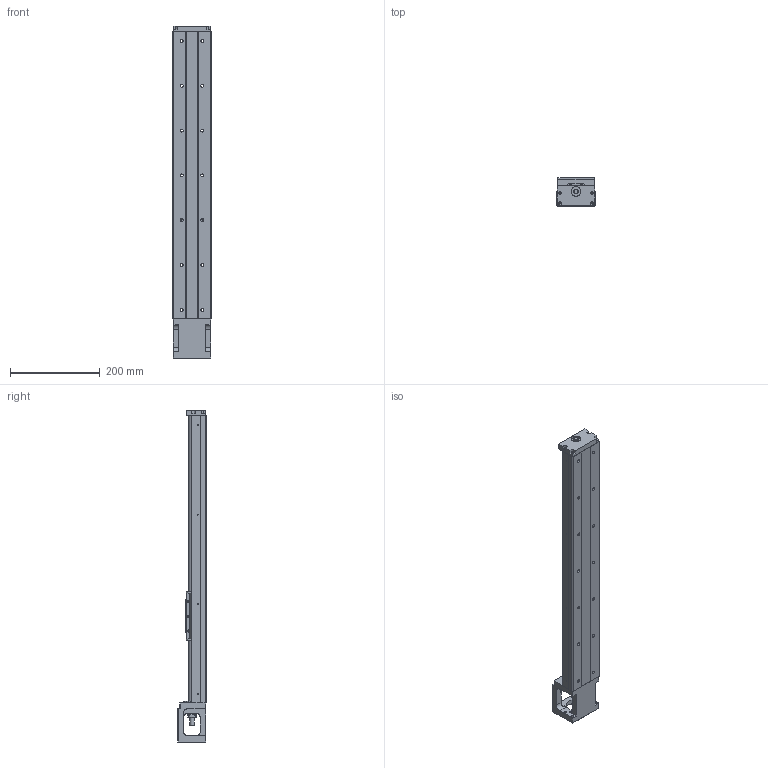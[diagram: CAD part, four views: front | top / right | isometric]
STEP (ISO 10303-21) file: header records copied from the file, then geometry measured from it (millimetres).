
FILE_DESCRIPTION(/* description */ (''),/* implementation_level */ '2;1');
FILE_NAME(/* name */ 'KP46N-640C02-D.stp',/* time_stamp */ '2020-07-03T09:40:22+08:00',/* author */ (''),/* organization */ (''),/* preprocessor_version */ 'ST-DEVELOPER v14',/* originating_system */ 'SIEMENS PLM Software NX 8.0',/* authorisation */ '');
FILE_SCHEMA (('AUTOMOTIVE_DESIGN { 1 0 10303 214 3 1 1 1 }'));
Length unit declared in the file: millimetre
Products named in the file (1): model2
Bounding box: 86 x 64 x 740 mm (x, y, z)
Volume: 1503178.7 mm3; surface area: 326385 mm2
Topology: 5 solids, 19 shells, 660 faces, 1723 edges, 1125 vertices
Faces by surface type: plane 294, cylinder 237, cone 68, bspline 53, torus 8
Full cylindrical faces by diameter (mm): 2.11 x4, 2.15 x8, 2.42 x8, 3 x6, 3.2 x4, 3.3 x6, 3.4 x8, 4.2 x4, 4.5 x8, 5 x10, 6 x8, 6.35 x2, 6.6 x14, 9.6 x1, 10 x4, 11 x14, 12 x1, 14.95 x2, 15 x1, 16 x2, 22 x3, 27.5 x1, 44 x1, 50 x1
Entity records: 32643 total; most frequent: CARTESIAN_POINT 13289, ORIENTED_EDGE 2936, DIRECTION 2869, EDGE_CURVE 1468, AXIS2_PLACEMENT_3D 1064, VERTEX_POINT 1057, EDGE_LOOP 929, LINE 741
